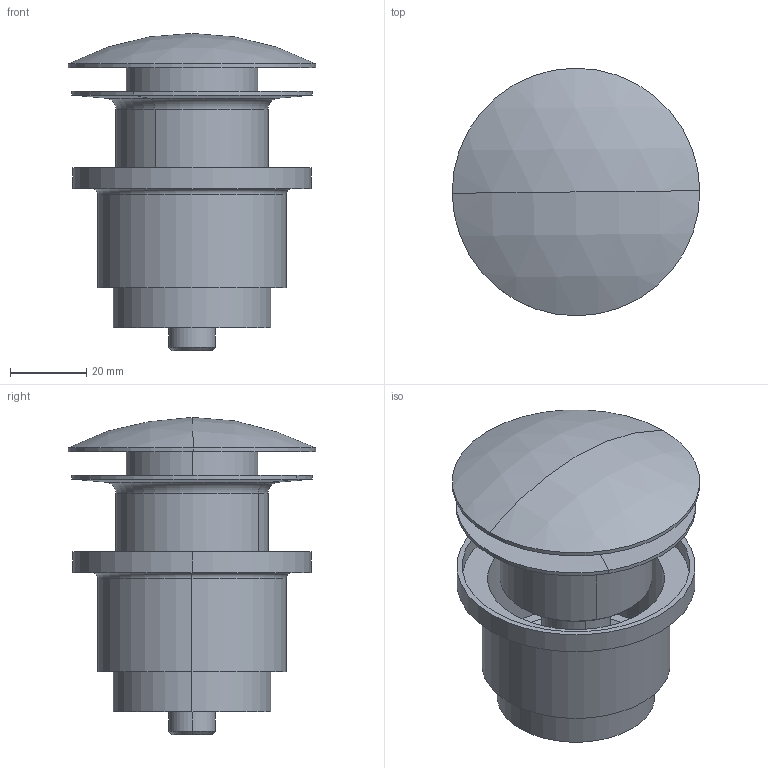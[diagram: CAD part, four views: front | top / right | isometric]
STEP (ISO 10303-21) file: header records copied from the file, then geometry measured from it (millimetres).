
FILE_DESCRIPTION (( 'STEP AP203' ), '1' );
FILE_NAME ('DRA5.STEP', '2025-02-07T13:16:42', ( '' ), ( '' ), 'SwSTEP 2.0', 'SolidWorks 2024', '' );
FILE_SCHEMA (( 'CONFIG_CONTROL_DESIGN' ));
Length unit declared in the file: millimetre
Products named in the file (4): C53.00.0018; C53.00.0017; DRA5; C53.00.0019
Assembly tree (3 placements, depth 2):
  DRA5
    C53.00.0019
    C53.00.0018
    C53.00.0017
Bounding box: 65 x 65 x 83.2 mm (x, y, z)
Volume: 36683.3 mm3; surface area: 42442.3 mm2
Topology: 3 solids, 3 shells, 111 faces, 251 edges, 156 vertices
Faces by surface type: cylinder 54, plane 29, cone 18, sphere 6, torus 4
Entity records: 3569 total; most frequent: DIRECTION 627, CARTESIAN_POINT 522, ORIENTED_EDGE 498, AXIS2_PLACEMENT_3D 261, EDGE_CURVE 249, VERTEX_POINT 156, CIRCLE 144, EDGE_LOOP 137
